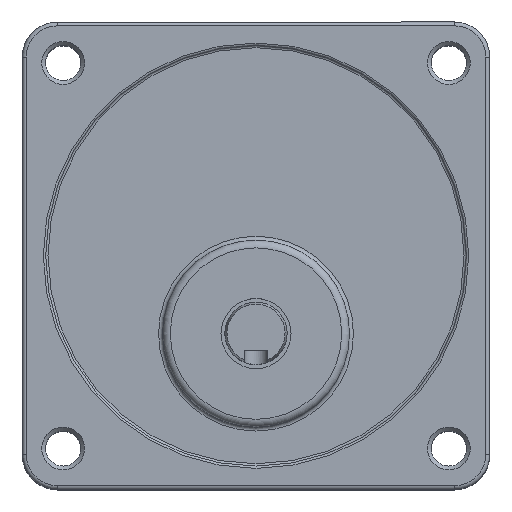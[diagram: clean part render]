
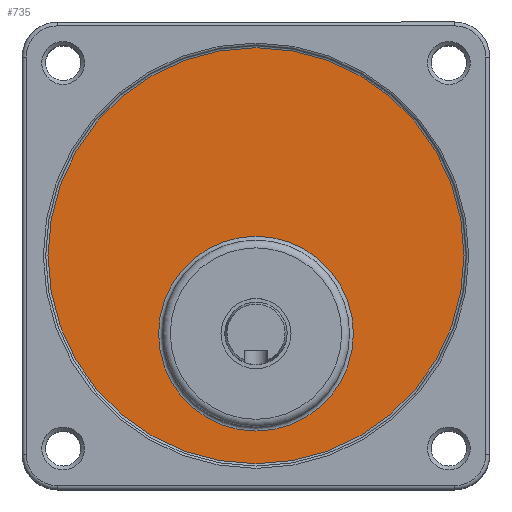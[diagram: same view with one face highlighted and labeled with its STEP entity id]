
A CAD part, top view. The second image highlights one B-rep face of the part: STEP entity #735.
In plain terms, the highlighted planar face has unit normal (0, 0, 1).
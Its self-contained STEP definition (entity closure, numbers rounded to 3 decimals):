
#684=CARTESIAN_POINT('',(42.5,20.0,39.2));
#685=VERTEX_POINT('',#684);
#686=CARTESIAN_POINT('',(30.,20.0,39.2));
#687=DIRECTION('',(0.0,0.0,1.0));
#688=DIRECTION('',(-1.0,0.0,0.0));
#689=AXIS2_PLACEMENT_3D('',#686,#687,#688);
#690=CIRCLE('',#689,12.5);
#691=EDGE_CURVE('',#685,#685,#690,.T.);
#716=CARTESIAN_POINT('',(30.,30.0,39.2));
#717=DIRECTION('',(0.0,0.0,-1.0));
#718=DIRECTION('',(-1.0,0.0,0.0));
#719=AXIS2_PLACEMENT_3D('',#716,#717,#718);
#720=PLANE('',#719);
#721=CARTESIAN_POINT('',(56.699,30.0,39.2));
#722=VERTEX_POINT('',#721);
#723=CARTESIAN_POINT('',(30.,30.0,39.2));
#724=DIRECTION('',(0.0,0.0,-1.0));
#725=DIRECTION('',(-1.0,0.0,0.0));
#726=AXIS2_PLACEMENT_3D('',#723,#724,#725);
#727=CIRCLE('',#726,26.699);
#728=EDGE_CURVE('',#722,#722,#727,.T.);
#729=ORIENTED_EDGE('',*,*,#728,.F.);
#730=EDGE_LOOP('',(#729));
#731=FACE_OUTER_BOUND('',#730,.T.);
#732=ORIENTED_EDGE('',*,*,#691,.F.);
#733=EDGE_LOOP('',(#732));
#734=FACE_BOUND('',#733,.T.);
#735=ADVANCED_FACE('',(#731,#734),#720,.F.);
